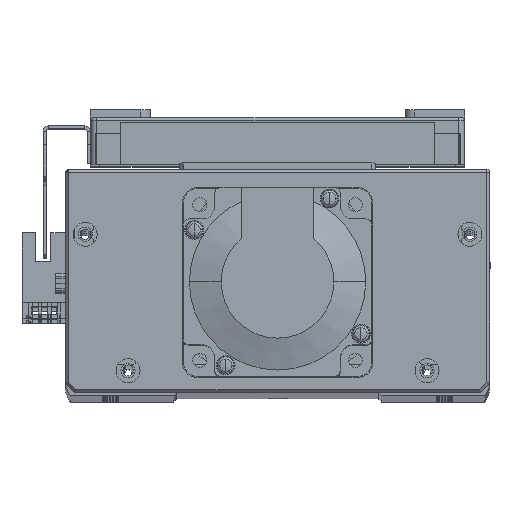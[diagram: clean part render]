
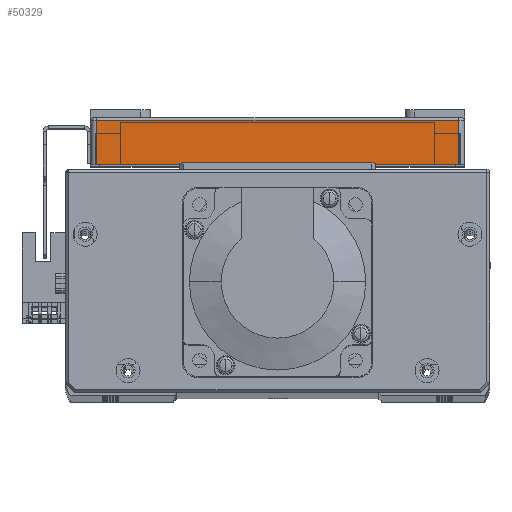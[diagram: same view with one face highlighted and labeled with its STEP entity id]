
A CAD part, top view. The second image highlights one B-rep face of the part: STEP entity #50329.
In plain terms, the highlighted planar face has unit normal (0, 0, 1) as drawn and (-1, 0, 0) by its records, which use the part's own axes.
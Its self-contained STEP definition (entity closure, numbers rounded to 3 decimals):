
#1098 = LINE ( 'NONE', #1556, #1120 ) ;
#1120 = VECTOR ( 'NONE', #1596, 1000. ) ;
#1556 = CARTESIAN_POINT ( 'NONE',  ( -95., 15., 57.5 ) ) ;
#1596 = DIRECTION ( 'NONE',  ( 0., 1., 0. ) ) ;
#7327 = PLANE ( 'NONE',  #24706 ) ;
#7340 = DIRECTION ( 'NONE',  ( 1., 0., 0. ) ) ;
#7343 = CARTESIAN_POINT ( 'NONE',  ( -95., 15., -59.5 ) ) ;
#7348 = DIRECTION ( 'NONE',  ( 0., 0., -1. ) ) ;
#8662 = EDGE_LOOP ( 'NONE', ( #41167, #41220, #41151, #41207 ) ) ;
#12567 = CARTESIAN_POINT ( 'NONE',  ( -95., 0., -59.5 ) ) ;
#12597 = DIRECTION ( 'NONE',  ( 0., 0., 1. ) ) ;
#20986 = DIRECTION ( 'NONE',  ( 0., -1., 0. ) ) ;
#20989 = CARTESIAN_POINT ( 'NONE',  ( -95., 15., -57.5 ) ) ;
#21097 = CARTESIAN_POINT ( 'NONE',  ( -95., 14., -57.5 ) ) ;
#21110 = DIRECTION ( 'NONE',  ( 0., 0., -1. ) ) ;
#21995 = LINE ( 'NONE', #20989, #22020 ) ;
#22020 = VECTOR ( 'NONE', #20986, 1000. ) ;
#22039 = LINE ( 'NONE', #21097, #22041 ) ;
#22041 = VECTOR ( 'NONE', #21110, 1000. ) ;
#24706 = AXIS2_PLACEMENT_3D ( 'NONE', #7343, #7340, #7348 ) ;
#28250 = FACE_OUTER_BOUND ( 'NONE', #8662, .T. ) ;
#29505 = EDGE_CURVE ( 'NONE', #37169, #37158, #21995, .T. ) ;
#29552 = EDGE_CURVE ( 'NONE', #37204, #37169, #22039, .T. ) ;
#30468 = EDGE_CURVE ( 'NONE', #37158, #37094, #55522, .T. ) ;
#31155 = EDGE_CURVE ( 'NONE', #37094, #37204, #1098, .T. ) ;
#37094 = VERTEX_POINT ( 'NONE', #46634 ) ;
#37158 = VERTEX_POINT ( 'NONE', #46740 ) ;
#37169 = VERTEX_POINT ( 'NONE', #46725 ) ;
#37204 = VERTEX_POINT ( 'NONE', #46704 ) ;
#41151 = ORIENTED_EDGE ( 'NONE', *, *, #29505, .T. ) ;
#41167 = ORIENTED_EDGE ( 'NONE', *, *, #31155, .T. ) ;
#41207 = ORIENTED_EDGE ( 'NONE', *, *, #30468, .T. ) ;
#41220 = ORIENTED_EDGE ( 'NONE', *, *, #29552, .T. ) ;
#46634 = CARTESIAN_POINT ( 'NONE',  ( -95., 0., 57.5 ) ) ;
#46704 = CARTESIAN_POINT ( 'NONE',  ( -95., 14., 57.5 ) ) ;
#46725 = CARTESIAN_POINT ( 'NONE',  ( -95., 14., -57.5 ) ) ;
#46740 = CARTESIAN_POINT ( 'NONE',  ( -95., 0., -57.5 ) ) ;
#50329 = ADVANCED_FACE ( 'NONE', ( #28250 ), #7327, .F. ) ;
#55480 = VECTOR ( 'NONE', #12597, 1000. ) ;
#55522 = LINE ( 'NONE', #12567, #55480 ) ;
